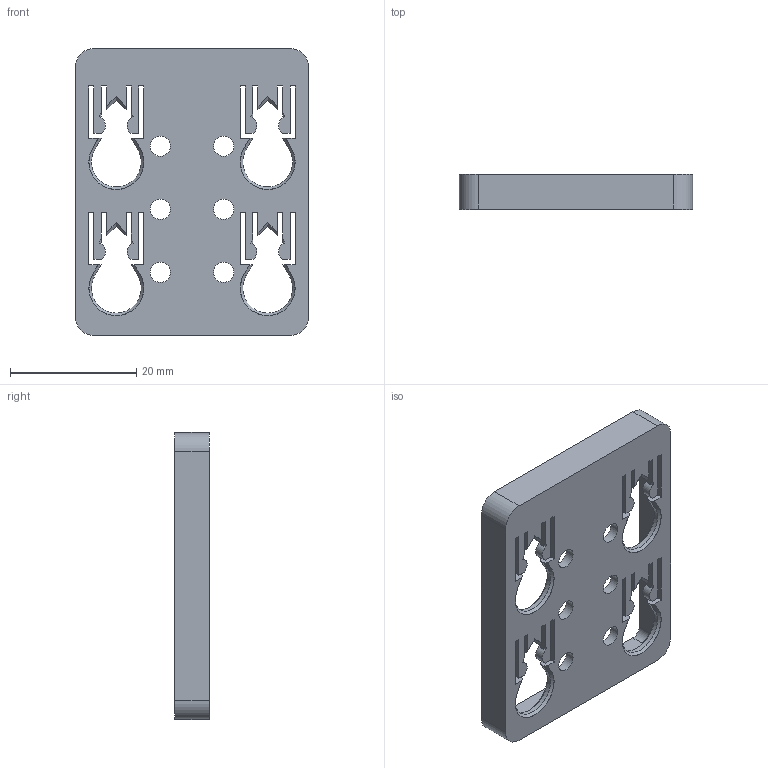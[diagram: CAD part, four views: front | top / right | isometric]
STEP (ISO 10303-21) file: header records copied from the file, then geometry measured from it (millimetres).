
FILE_DESCRIPTION(('Open CASCADE Model'),'2;1');
FILE_NAME('Open CASCADE Shape Model','2026-10-16T13:50:01',('Author'),( 'Open CASCADE'),'Open CASCADE STEP processor 8.0','build123d', 'Unknown');
FILE_SCHEMA(('AUTOMOTIVE_DESIGN { 1 0 10303 214 1 1 1 1 }'));
Length unit declared in the file: millimetre
Products named in the file (1): COMPOUND
Bounding box: 37 x 5.5 x 45.5 mm (x, y, z)
Volume: 2860.4 mm3; surface area: 4571.9 mm2
Topology: 1 solids, 1 shells, 261 faces, 750 edges, 492 vertices
Faces by surface type: plane 155, cylinder 50, bspline 32, cone 24
Full cylindrical faces by diameter (mm): 3.2 x6
Entity records: 18528 total; most frequent: CARTESIAN_POINT 4856, DIRECTION 2146, ORIENTED_EDGE 1500, PCURVE 1500, DEFINITIONAL_REPRESENTATION 1500, LINE 1302, VECTOR 1302, EDGE_CURVE 750
